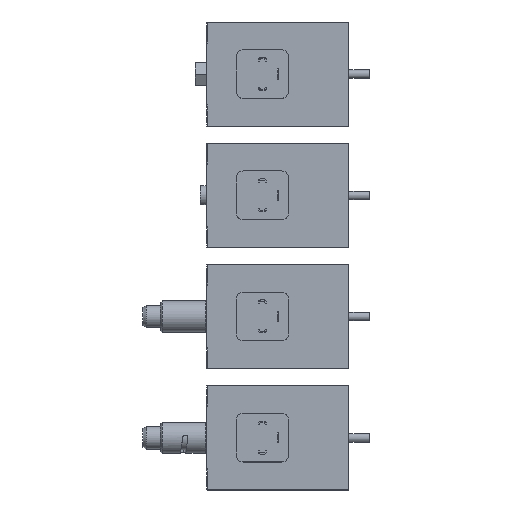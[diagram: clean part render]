
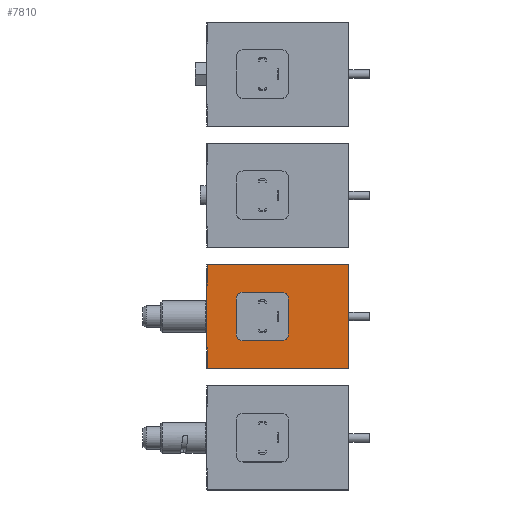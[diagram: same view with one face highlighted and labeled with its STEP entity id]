
A CAD part, top view. The second image highlights one B-rep face of the part: STEP entity #7810.
In plain terms, the highlighted planar face has unit normal (0, 0, 1).
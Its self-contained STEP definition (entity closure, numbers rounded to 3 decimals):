
#7810=ADVANCED_FACE('', (#7820,#7830,#7840,#7850,#7860), #7870, .T.);
#33560=AXIS2_PLACEMENT_3D('Ax2Pl3d', #33570, #33580, #33590);
#33600=AXIS2_PLACEMENT_3D('Ax2Pl3d', #33610, #33620, #33630);
#33640=AXIS2_PLACEMENT_3D('Ax2Pl3d', #33650, #33660, #33670);
#33680=AXIS2_PLACEMENT_3D('Ax2Pl3d', #33690, #33700, #33710);
#33720=AXIS2_PLACEMENT_3D('Ax2Pl3d', #33730, #33740, #33750);
#57590=B_SPLINE_CURVE_WITH_KNOTS('Bspl', 3, (#57600,#57610,#57620,
#57630,#57640,#57650,#57660,#57670,#57680), .UNSPECIFIED., .F., .F., (4,
1,1,1,1,1,4), (0.,0.25,0.375,0.5,0.625,0.75,1.), .UNSPECIFIED.);
#57690=B_SPLINE_CURVE_WITH_KNOTS('Bspl', 3, (#57700,#57710,#57720,
#57730,#57740,#57750,#57760,#57770,#57780), .UNSPECIFIED., .F., .F., (4,
1,1,1,1,1,4), (0.,0.25,0.375,0.5,0.625,0.75,1.), .UNSPECIFIED.);
#70560=CARTESIAN_POINT('', (81.2,70.,320.));
#70610=CARTESIAN_POINT('', (81.2,130.,320.));
#70620=CARTESIAN_POINT('', (81.2,130.,320.));
#70690=CARTESIAN_POINT('', (81.2,70.,320.));
#70700=CARTESIAN_POINT('', (0.,70.,320.));
#33570=CARTESIAN_POINT('HicPkt', (0.,70.,320.));
#70800=CARTESIAN_POINT('', (0.,130.,320.));
#70810=CARTESIAN_POINT('', (0.,130.,320.));
#70820=CARTESIAN_POINT('', (0.,130.,320.));
#70830=CARTESIAN_POINT('', (0.,119.487,320.));
#57600=CARTESIAN_POINT('', (-0.3,119.008,320.));
#57610=CARTESIAN_POINT('', (-0.273,119.05,320.));
#57620=CARTESIAN_POINT('', (-0.233,119.112,320.));
#57630=CARTESIAN_POINT('', (-0.181,119.195,320.));
#57640=CARTESIAN_POINT('', (-0.14,119.259,320.));
#57650=CARTESIAN_POINT('', (-0.106,119.315,320.));
#57660=CARTESIAN_POINT('', (-0.058,119.392,320.))
;
#57670=CARTESIAN_POINT('', (-0.023,119.449,320.));
#57680=CARTESIAN_POINT('', (0.,119.487,320.));
#70840=CARTESIAN_POINT('', (-0.3,119.008,320.));
#70850=CARTESIAN_POINT('', (-0.3,80.992,320.));
#70860=CARTESIAN_POINT('', (-0.3,80.992,320.));
#57700=CARTESIAN_POINT('', (0.,80.513,320.));
#57710=CARTESIAN_POINT('', (-0.024,80.553,320.));
#57720=CARTESIAN_POINT('', (-0.061,80.612,320.));
#57730=CARTESIAN_POINT('', (-0.11,80.692,320.));
#57740=CARTESIAN_POINT('', (-0.147,80.751,320.));
#57750=CARTESIAN_POINT('', (-0.185,80.811,320.));
#57760=CARTESIAN_POINT('', (-0.236,80.892,320.));
#57770=CARTESIAN_POINT('', (-0.274,80.952,320.));
#57780=CARTESIAN_POINT('', (-0.3,80.992,320.));
#70870=CARTESIAN_POINT('', (0.,80.513,320.));
#70880=CARTESIAN_POINT('', (0.,80.513,320.));
#33610=CARTESIAN_POINT('HicPkt', (27.7,100.,320.));
#70890=CARTESIAN_POINT('', (27.7,107.5,320.));
#33650=CARTESIAN_POINT('HicPkt', (22.45,109.25,320.));
#70900=CARTESIAN_POINT('', (22.45,110.75,320.));
#33690=CARTESIAN_POINT('HicPkt', (38.2,100.,320.));
#70910=CARTESIAN_POINT('', (38.2,101.5,320.));
#33730=CARTESIAN_POINT('HicPkt', (40.95,90.75,320.));
#70920=CARTESIAN_POINT('', (40.95,92.25,320.));
#79380=CIRCLE('Circle', #33600, 7.5);
#79390=CIRCLE('Circle', #33640, 1.5);
#79400=CIRCLE('Circle', #33680, 1.5);
#79410=CIRCLE('Circle', #33720, 1.5);
#119490=DIRECTION('', (0.,1.,0.));
#119500=DIRECTION('', (1.,0.,0.));
#33580=DIRECTION('Axis', (0.,0.,1.));
#33590=DIRECTION('RefDirection', (1.,0.,0.));
#119550=DIRECTION('', (-1.,0.,0.));
#119560=DIRECTION('', (0.,1.,0.));
#119570=DIRECTION('', (0.,-1.,0.));
#119580=DIRECTION('', (0.,1.,0.));
#33620=DIRECTION('Axis', (0.,0.,1.));
#33630=DIRECTION('RefDirection', (1.,0.,0.));
#33660=DIRECTION('Axis', (0.,0.,1.));
#33670=DIRECTION('RefDirection', (1.,0.,0.));
#33700=DIRECTION('Axis', (0.,0.,1.));
#33710=DIRECTION('RefDirection', (1.,0.,0.));
#33740=DIRECTION('Axis', (0.,0.,1.));
#33750=DIRECTION('RefDirection', (1.,0.,0.));
#132320=EDGE_CURVE('', #132230, #132300, #132330, .T.);
#132460=EDGE_CURVE('', #132470, #132230, #132480, .T.);
#132640=EDGE_CURVE('', #132300, #132650, #132660, .T.);
#132670=EDGE_CURVE('', #132680, #132650, #132690, .T.);
#132700=EDGE_CURVE('', #132710, #132680, #57590, .T.);
#132720=EDGE_CURVE('', #132710, #132730, #132740, .T.);
#132750=EDGE_CURVE('', #132760, #132730, #57690, .T.);
#132770=EDGE_CURVE('', #132470, #132760, #132780, .T.);
#132790=EDGE_CURVE('', #132800, #132800, #79380, .T.);
#132810=EDGE_CURVE('', #132820, #132820, #79390, .T.);
#132830=EDGE_CURVE('', #132840, #132840, #79400, .T.);
#132850=EDGE_CURVE('', #132860, #132860, #79410, .T.);
#156690=EDGE_LOOP('Edge_loop', (#156700,#156710,#156720,#156730,
#156740,#156750,#156760,#156770));
#156780=EDGE_LOOP('Edge_loop', (#156790));
#156800=EDGE_LOOP('Edge_loop', (#156810));
#156820=EDGE_LOOP('Edge_loop', (#156830));
#156840=EDGE_LOOP('Edge_loop', (#156850));
#7830=FACE_BOUND('', #156780, .T.);
#7840=FACE_BOUND('', #156800, .T.);
#7850=FACE_BOUND('', #156820, .T.);
#7860=FACE_BOUND('', #156840, .T.);
#7820=FACE_OUTER_BOUND('Face_outer_bound', #156690, .T.);
#132330=LINE('Line', #70620, #185960);
#132480=LINE('Line', #70690, #185970);
#132660=LINE('Line', #70800, #186020);
#132690=LINE('Line', #70820, #186030);
#132740=LINE('Line', #70850, #186040);
#132780=LINE('Line', #70880, #186050);
#156700=ORIENTED_EDGE('', *, *, #132460, .T.);
#156710=ORIENTED_EDGE('', *, *, #132320, .T.);
#156720=ORIENTED_EDGE('', *, *, #132640, .T.);
#156730=ORIENTED_EDGE('', *, *, #132670, .F.);
#156740=ORIENTED_EDGE('', *, *, #132700, .F.);
#156750=ORIENTED_EDGE('', *, *, #132720, .T.);
#156760=ORIENTED_EDGE('', *, *, #132750, .F.);
#156770=ORIENTED_EDGE('', *, *, #132770, .F.);
#156790=ORIENTED_EDGE('', *, *, #132790, .F.);
#156810=ORIENTED_EDGE('', *, *, #132810, .F.);
#156830=ORIENTED_EDGE('', *, *, #132830, .F.);
#156850=ORIENTED_EDGE('', *, *, #132850, .F.);
#7870=PLANE('Plane', #33560);
#185960=VECTOR('', #119490, 60.);
#185970=VECTOR('', #119500, 81.2);
#186020=VECTOR('', #119550, 81.2);
#186030=VECTOR('', #119560, 10.513);
#186040=VECTOR('', #119570, 38.017);
#186050=VECTOR('', #119580, 10.513);
#132230=VERTEX_POINT('', #70560);
#132300=VERTEX_POINT('', #70610);
#132470=VERTEX_POINT('', #70700);
#132650=VERTEX_POINT('', #70810);
#132680=VERTEX_POINT('', #70830);
#132710=VERTEX_POINT('', #70840);
#132730=VERTEX_POINT('', #70860);
#132760=VERTEX_POINT('', #70870);
#132800=VERTEX_POINT('', #70890);
#132820=VERTEX_POINT('', #70900);
#132840=VERTEX_POINT('', #70910);
#132860=VERTEX_POINT('', #70920);
